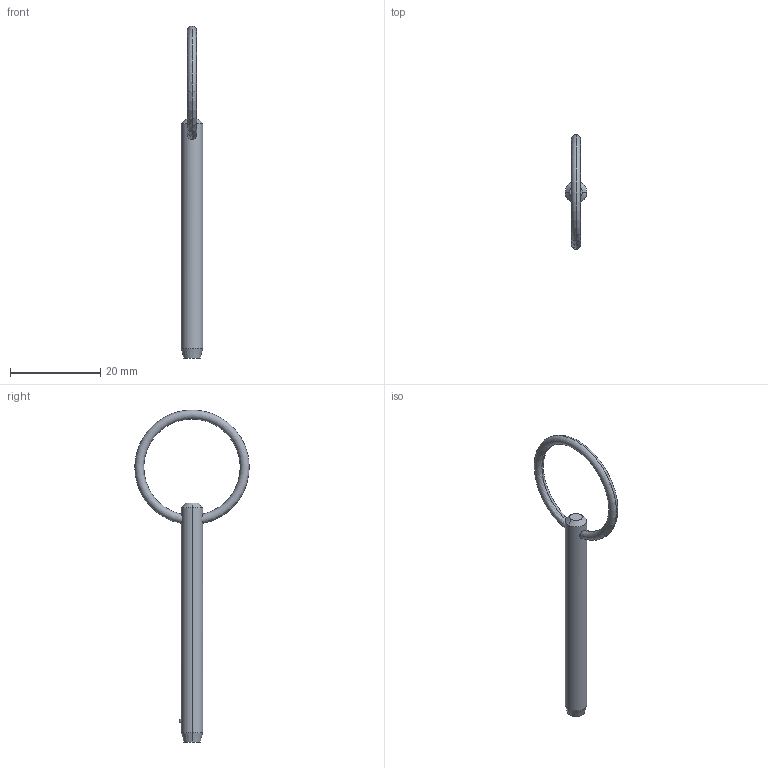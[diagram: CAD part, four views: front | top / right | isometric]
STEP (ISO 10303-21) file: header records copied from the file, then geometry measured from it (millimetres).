
FILE_DESCRIPTION (( 'STEP AP203' ), '1' );
FILE_NAME ('P1250.018-170.step', '2019-07-29T19:32:22', ( '' ), ( '' ), 'SwSTEP 2.0', 'SolidWorks 2017', '' );
FILE_SCHEMA (( 'CONFIG_CONTROL_DESIGN' ));
Length unit declared in the file: millimetre
Products named in the file (1): P1250.018-170
Bounding box: 4.76 x 25.4 x 73.68 mm (x, y, z)
Volume: 1146.1 mm3; surface area: 1236.1 mm2
Topology: 1 solids, 1 shells, 12 faces, 28 edges, 17 vertices
Faces by surface type: cone 4, torus 2, sphere 2, cylinder 2, plane 2
Entity records: 471 total; most frequent: CARTESIAN_POINT 138, DIRECTION 56, ORIENTED_EDGE 48, AXIS2_PLACEMENT_3D 25, EDGE_CURVE 24, VERTEX_POINT 15, EDGE_LOOP 15, FACE_OUTER_BOUND 12
